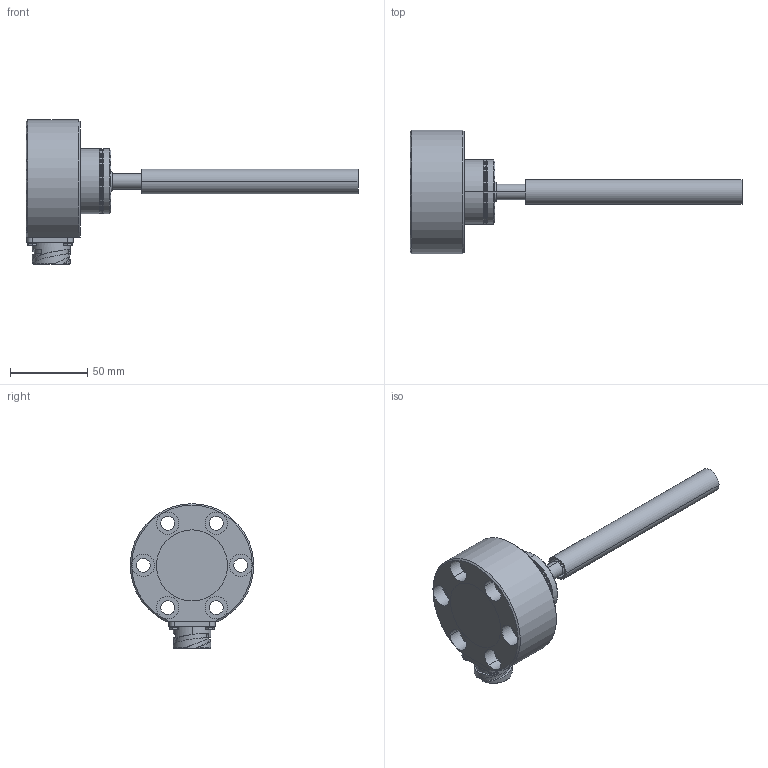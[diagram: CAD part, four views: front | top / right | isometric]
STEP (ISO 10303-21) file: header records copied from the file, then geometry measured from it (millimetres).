
FILE_DESCRIPTION((''),'2;1');
FILE_NAME('EDS-100-F-SRB_MIT_ROHR_ASM','2007-12-12T',('11000065'),(''),'PRO/ENGINEER BY PARAMETRIC TECHNOLOGY CORPORATION, 2007160','PRO/ENGINEER BY PARAMETRIC TECHNOLOGY CORPORATION, 2007160','');
FILE_SCHEMA(('AUTOMOTIVE_DESIGN { 1 2 10303 214 0 1 1 1 }'));
Length unit declared in the file: millimetre
Products named in the file (4): EDS-100-F; MESSROHR; O-RING-38X2; EDS-100-F-SRB_MIT_ROHR_ASM
Assembly tree (3 placements, depth 2):
  EDS-100-F-SRB_MIT_ROHR_ASM
    EDS-100-F
    MESSROHR
    O-RING-38X2
Bounding box: 215 x 79.87 x 93.7 mm (x, y, z)
Volume: 207568.5 mm3; surface area: 48773.3 mm2
Topology: 3 solids, 7 shells, 270 faces, 632 edges, 412 vertices
Faces by surface type: cylinder 113, plane 88, cone 39, bspline 16, torus 12, sphere 2
Entity records: 9142 total; most frequent: CARTESIAN_POINT 2605, DIRECTION 1330, ORIENTED_EDGE 1260, EDGE_CURVE 630, AXIS2_PLACEMENT_3D 558, VERTEX_POINT 412, EDGE_LOOP 324, CIRCLE 297
